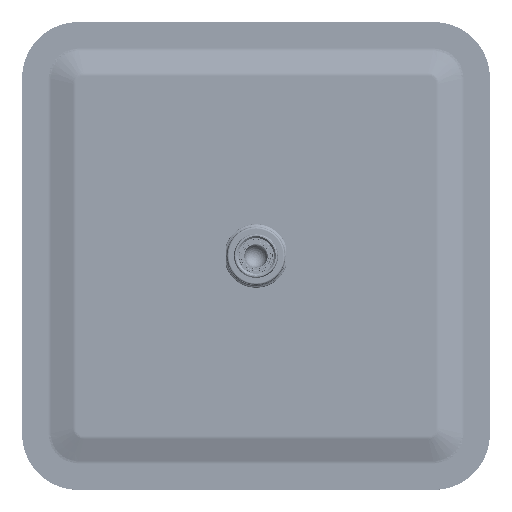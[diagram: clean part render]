
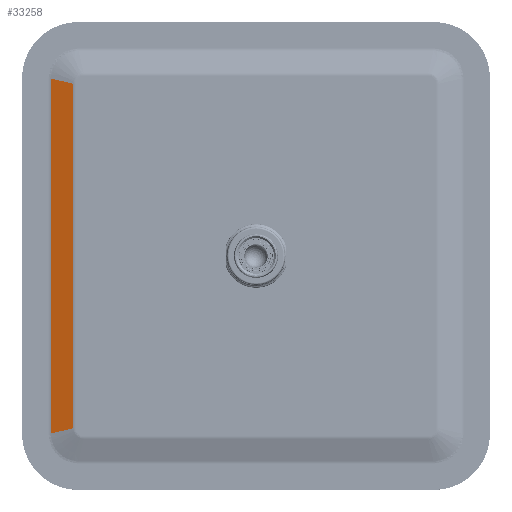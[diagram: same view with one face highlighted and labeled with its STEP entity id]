
A CAD part, top view. The second image highlights one B-rep face of the part: STEP entity #33258.
In plain terms, the highlighted planar face has unit normal (-0.292, 0, 0.956).
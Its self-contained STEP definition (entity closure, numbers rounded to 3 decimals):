
#2252=LINE('',#67559,#3312);
#2254=LINE('',#67680,#3314);
#2256=LINE('',#67686,#3316);
#2257=LINE('',#67687,#3317);
#3312=VECTOR('',#50840,12.513);
#3314=VECTOR('',#50848,184.07);
#3316=VECTOR('',#50854,12.513);
#3317=VECTOR('',#50855,189.595);
#6932=FACE_OUTER_BOUND('',#9958,.T.);
#9958=EDGE_LOOP('',(#30190,#30191,#30192,#30193));
#16366=VERTEX_POINT('',#67359);
#16368=VERTEX_POINT('',#67434);
#16371=VERTEX_POINT('',#67679);
#16373=VERTEX_POINT('',#67685);
#20995=EDGE_CURVE('',#16366,#16368,#2252,.T.);
#21000=EDGE_CURVE('',#16368,#16371,#2254,.T.);
#21003=EDGE_CURVE('',#16373,#16371,#2256,.T.);
#21004=EDGE_CURVE('',#16366,#16373,#2257,.T.);
#30190=ORIENTED_EDGE('',*,*,#21000,.T.);
#30191=ORIENTED_EDGE('',*,*,#21003,.F.);
#30192=ORIENTED_EDGE('',*,*,#21004,.F.);
#30193=ORIENTED_EDGE('',*,*,#20995,.T.);
#31156=PLANE('',#38832);
#33258=ADVANCED_FACE('',(#6932),#31156,.T.);
#38832=AXIS2_PLACEMENT_3D('',#67684,#50852,#50853);
#50840=DIRECTION('',(0.933,0.221,0.285));
#50848=DIRECTION('',(0.,1.,0.));
#50852=DIRECTION('center_axis',(-0.292,0.,
0.956));
#50853=DIRECTION('ref_axis',(0.,-1.,0.));
#50854=DIRECTION('',(0.933,-0.221,0.285));
#50855=DIRECTION('',(0.,1.,0.));
#67359=CARTESIAN_POINT('',(-109.435,-128.797,-49.282));
#67434=CARTESIAN_POINT('',(-97.763,-126.035,-45.718));
#67559=CARTESIAN_POINT('',(-109.435,-128.797,-49.282));
#67679=CARTESIAN_POINT('',(-97.763,58.035,-45.718));
#67680=CARTESIAN_POINT('',(-97.763,-126.035,-45.718));
#67684=CARTESIAN_POINT('Origin',(-103.742,-34.,-47.544));
#67685=CARTESIAN_POINT('',(-109.435,60.797,-49.282));
#67686=CARTESIAN_POINT('',(-109.435,60.797,-49.282));
#67687=CARTESIAN_POINT('',(-109.435,-128.797,-49.282));
